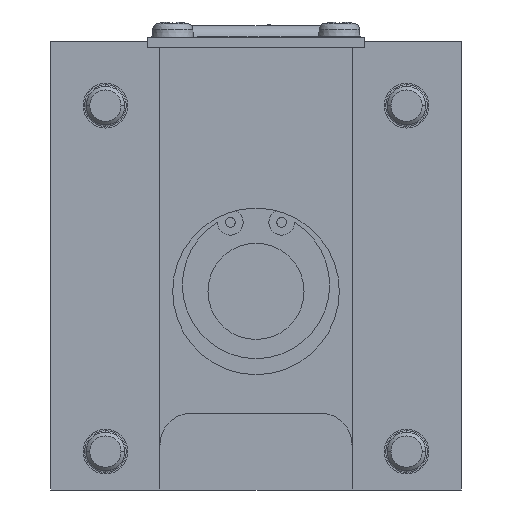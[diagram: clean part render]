
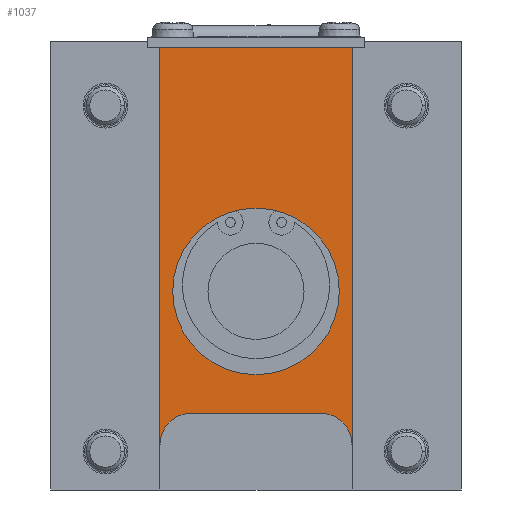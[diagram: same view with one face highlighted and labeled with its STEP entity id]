
A CAD part, front view. The second image highlights one B-rep face of the part: STEP entity #1037.
In plain terms, the highlighted planar face has unit normal (0, -1, 0).
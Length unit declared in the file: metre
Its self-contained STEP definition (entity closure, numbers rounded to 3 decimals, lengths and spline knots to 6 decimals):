
#343 = DIRECTION ( 'NONE',  ( 0., 0., -1. ) ) ;
#401 = DIRECTION ( 'NONE',  ( 0., 1., 0. ) ) ;
#773 = CIRCLE ( 'NONE', #5576, 0.013 ) ;
#1037 = ADVANCED_FACE ( 'NONE', ( #11821, #11093 ), #11369, .T. ) ;
#1199 = EDGE_CURVE ( 'NONE', #4667, #22618, #8946, .T. ) ;
#1467 = ORIENTED_EDGE ( 'NONE', *, *, #14430, .T. ) ;
#2466 = ORIENTED_EDGE ( 'NONE', *, *, #1199, .T. ) ;
#2674 = DIRECTION ( 'NONE',  ( 0., 0., 1. ) ) ;
#3257 = VERTEX_POINT ( 'NONE', #25038 ) ;
#3710 = ORIENTED_EDGE ( 'NONE', *, *, #16073, .T. ) ;
#4468 = CARTESIAN_POINT ( 'NONE',  ( 0., 0., -0.019 ) ) ;
#4531 = VECTOR ( 'NONE', #10755, 1. ) ;
#4566 = EDGE_CURVE ( 'NONE', #22618, #19206, #17369, .T. ) ;
#4632 = DIRECTION ( 'NONE',  ( 0., -1., 0. ) ) ;
#4667 = VERTEX_POINT ( 'NONE', #15040 ) ;
#5576 = AXIS2_PLACEMENT_3D ( 'NONE', #25930, #12262, #28244 ) ;
#5661 = LINE ( 'NONE', #4468, #17110 ) ;
#5694 = CARTESIAN_POINT ( 'NONE',  ( -0.01, 0., -0.019 ) ) ;
#6269 = VECTOR ( 'NONE', #2674, 1. ) ;
#6411 = CARTESIAN_POINT ( 'NONE',  ( 0., 0., 0.013 ) ) ;
#6567 = VERTEX_POINT ( 'NONE', #21554 ) ;
#6778 = DIRECTION ( 'NONE',  ( 1., 0., 0. ) ) ;
#7528 = ORIENTED_EDGE ( 'NONE', *, *, #4566, .T. ) ;
#8946 = LINE ( 'NONE', #21611, #14296 ) ;
#9291 = VERTEX_POINT ( 'NONE', #13056 ) ;
#9840 = CARTESIAN_POINT ( 'NONE',  ( -0.015, 0., 0.006814 ) ) ;
#10239 = VERTEX_POINT ( 'NONE', #6411 ) ;
#10723 = DIRECTION ( 'NONE',  ( 0., -1., 0. ) ) ;
#10755 = DIRECTION ( 'NONE',  ( 0., 0., -1. ) ) ;
#11093 = FACE_OUTER_BOUND ( 'NONE', #16563, .T. ) ;
#11369 = PLANE ( 'NONE',  #23077 ) ;
#11429 = CARTESIAN_POINT ( 'NONE',  ( -0.015, 0., 0.038 ) ) ;
#11606 = ORIENTED_EDGE ( 'NONE', *, *, #29225, .T. ) ;
#11821 = FACE_BOUND ( 'NONE', #22390, .T. ) ;
#12262 = DIRECTION ( 'NONE',  ( 0., -1., 0. ) ) ;
#13056 = CARTESIAN_POINT ( 'NONE',  ( 0., 0., -0.013 ) ) ;
#14011 = VERTEX_POINT ( 'NONE', #5694 ) ;
#14095 = DIRECTION ( 'NONE',  ( 0., 1., 0. ) ) ;
#14149 = CARTESIAN_POINT ( 'NONE',  ( 0.01, 0., -0.024 ) ) ;
#14296 = VECTOR ( 'NONE', #23735, 1. ) ;
#14333 = CIRCLE ( 'NONE', #19255, 0.005 ) ;
#14430 = EDGE_CURVE ( 'NONE', #6567, #4667, #18419, .T. ) ;
#15040 = CARTESIAN_POINT ( 'NONE',  ( 0.015, 0., 0.038 ) ) ;
#15101 = AXIS2_PLACEMENT_3D ( 'NONE', #14149, #401, #16426 ) ;
#15454 = CARTESIAN_POINT ( 'NONE',  ( -0.015, 0., -0.024 ) ) ;
#15667 = CIRCLE ( 'NONE', #15101, 0.005 ) ;
#16073 = EDGE_CURVE ( 'NONE', #19206, #14011, #14333, .T. ) ;
#16426 = DIRECTION ( 'NONE',  ( 0., 0., -1. ) ) ;
#16563 = EDGE_LOOP ( 'NONE', ( #7528, #3710, #21141, #11606, #1467, #2466 ) ) ;
#16999 = EDGE_CURVE ( 'NONE', #10239, #9291, #28240, .T. ) ;
#17110 = VECTOR ( 'NONE', #6778, 1. ) ;
#17369 = LINE ( 'NONE', #9840, #4531 ) ;
#18419 = LINE ( 'NONE', #21098, #6269 ) ;
#18468 = ORIENTED_EDGE ( 'NONE', *, *, #16999, .F. ) ;
#19206 = VERTEX_POINT ( 'NONE', #15454 ) ;
#19255 = AXIS2_PLACEMENT_3D ( 'NONE', #27786, #14095, #343 ) ;
#20030 = ORIENTED_EDGE ( 'NONE', *, *, #23030, .F. ) ;
#20652 = DIRECTION ( 'NONE',  ( 0., 0., -1. ) ) ;
#21098 = CARTESIAN_POINT ( 'NONE',  ( 0.015, 0., 0.006814 ) ) ;
#21141 = ORIENTED_EDGE ( 'NONE', *, *, #28455, .T. ) ;
#21554 = CARTESIAN_POINT ( 'NONE',  ( 0.015, 0., -0.024 ) ) ;
#21611 = CARTESIAN_POINT ( 'NONE',  ( 0., 0., 0.038 ) ) ;
#22390 = EDGE_LOOP ( 'NONE', ( #20030, #18468 ) ) ;
#22618 = VERTEX_POINT ( 'NONE', #11429 ) ;
#23030 = EDGE_CURVE ( 'NONE', #9291, #10239, #773, .T. ) ;
#23077 = AXIS2_PLACEMENT_3D ( 'NONE', #29710, #4632, #20652 ) ;
#23735 = DIRECTION ( 'NONE',  ( -1., 0., 0. ) ) ;
#24409 = CARTESIAN_POINT ( 'NONE',  ( 0., 0., 0. ) ) ;
#25038 = CARTESIAN_POINT ( 'NONE',  ( 0.01, 0., -0.019 ) ) ;
#25930 = CARTESIAN_POINT ( 'NONE',  ( 0., 0., 0. ) ) ;
#26697 = DIRECTION ( 'NONE',  ( 0., 0., -1. ) ) ;
#27191 = AXIS2_PLACEMENT_3D ( 'NONE', #24409, #10723, #26697 ) ;
#27786 = CARTESIAN_POINT ( 'NONE',  ( -0.01, 0., -0.024 ) ) ;
#28240 = CIRCLE ( 'NONE', #27191, 0.013 ) ;
#28244 = DIRECTION ( 'NONE',  ( 0., 0., -1. ) ) ;
#28455 = EDGE_CURVE ( 'NONE', #14011, #3257, #5661, .T. ) ;
#29225 = EDGE_CURVE ( 'NONE', #3257, #6567, #15667, .T. ) ;
#29710 = CARTESIAN_POINT ( 'NONE',  ( -0.015, 0., 0.038 ) ) ;
